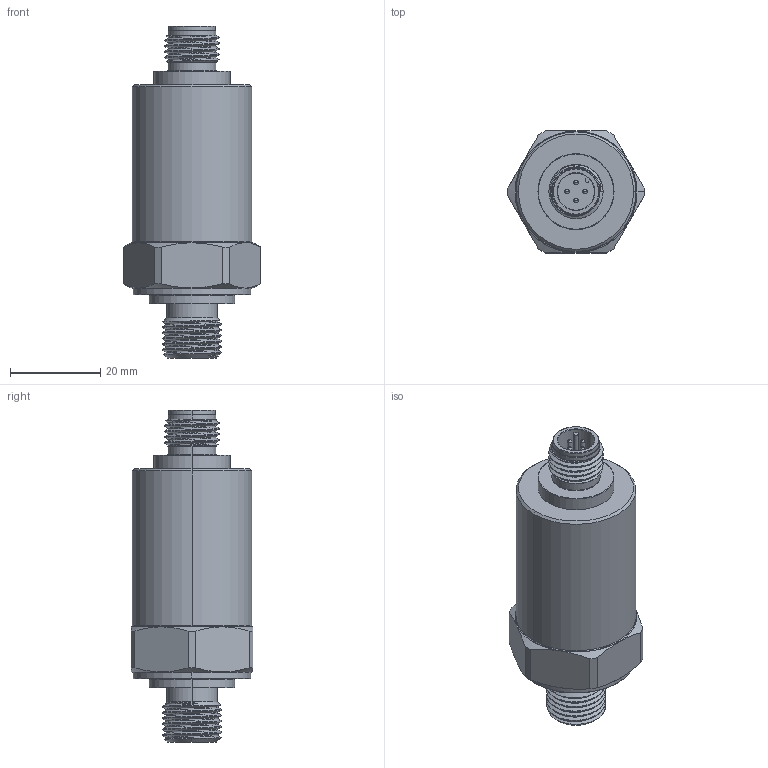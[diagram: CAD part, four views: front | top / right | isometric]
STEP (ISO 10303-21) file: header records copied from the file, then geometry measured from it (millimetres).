
FILE_DESCRIPTION (( 'STEP AP214' ), '1' );
FILE_NAME ('BPS1A5-.STEP', '2024-11-28T02:11:39', ( '' ), ( '' ), 'SwSTEP 2.0', 'SolidWorks 2022', '' );
FILE_SCHEMA (( 'AUTOMOTIVE_DESIGN' ));
Length unit declared in the file: millimetre
Products named in the file (1): BPS1A5-
Bounding box: 30.18 x 27 x 73.5 mm (x, y, z)
Volume: 28966.6 mm3; surface area: 7284.2 mm2
Topology: 1 solids, 1 shells, 178 faces, 444 edges, 276 vertices
Faces by surface type: cylinder 76, plane 36, cone 28, torus 18, bspline 12, sphere 8
Entity records: 10551 total; most frequent: CARTESIAN_POINT 6425, ORIENTED_EDGE 856, DIRECTION 717, EDGE_CURVE 428, AXIS2_PLACEMENT_3D 301, VERTEX_POINT 268, EDGE_LOOP 194, ADVANCED_FACE 178
